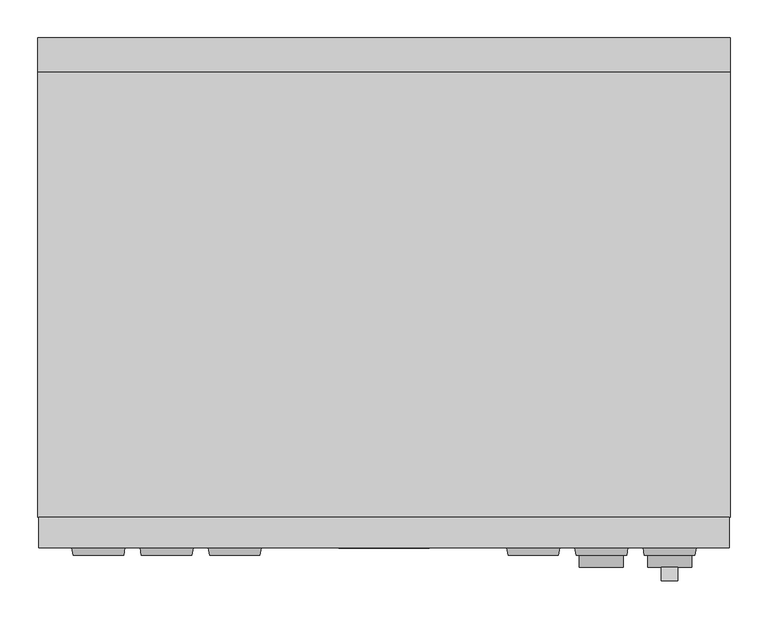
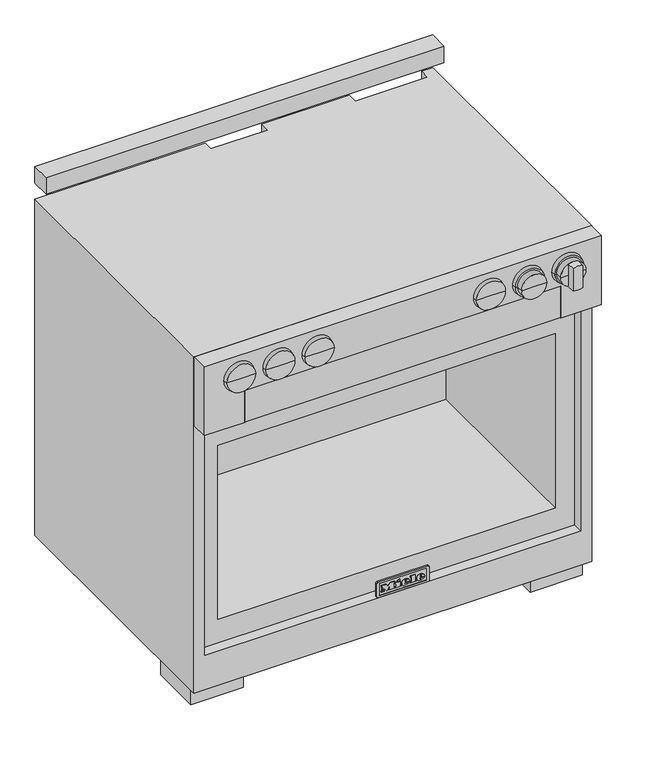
"""IFC4 building model written with IfcOpenShell, lengths in millimetres: proxy geometry, 10902390_USA_HR1934-2LP_EDST-CLS : 25193472_USA_10902390_HR1934-2LP_EDST-CLS."""

from ifc_helpers import new_model, si_unit, point, frame, frame_2d, origin, origin_with_axes, place, context, project, spatial, polyline, circle_curve, ellipse_curve, trimmed, segment, composite_curve, outline, extrude, faceted_brep, source, transform, mapped, element, save
from ifc_brep_helpers import plane_surface, cylinder_surface, revolved_surface, extruded_surface, advanced_brep


def specialty_equipment_d2eaf5fb(model_context):
    return source(origin(), model_context, "Body", "SolidModel", [
        advanced_brep(
        [(287.0, -683.0, 813.0), (316.0, -683.0, 813.0), (258.0, -683.0, 813.0), (258.0, -699.0, 813.0), (316.0, -699.0, 813.0), (287.0, -699.0, 813.0)],
        [
            (0, 1),
            (1, 2, circle_curve(frame((287.0, -683.0, 813.0), z_axis=(0.0, 1.0, 0.0), x_axis=(1.0, 0.0, 0.0)), 29.0)),
            (2, 0),
            (2, 1, circle_curve(frame((287.0, -683.0, 813.0), z_axis=(0.0, 1.0, 0.0), x_axis=(1.0, 0.0, 0.0)), 29.0)),
            (3, 4, circle_curve(frame((287.0, -699.0, 813.0), z_axis=(0.0, -1.0, 0.0), x_axis=(1.0, 0.0, 0.0)), 29.0)),
            (4, 5),
            (5, 3),
            (4, 3, circle_curve(frame((287.0, -699.0, 813.0), z_axis=(0.0, -1.0, 0.0), x_axis=(1.0, 0.0, 0.0)), 29.0)),
            (1, 4),
            (3, 2),
        ],
        [
            plane_surface(frame((287.0, -683.0, 813.0), z_axis=(0.0, 1.0, 0.0), x_axis=(1.0, 0.0, 0.0))),
            plane_surface(frame((287.0, -699.0, 813.0), z_axis=(0.0, -1.0, 0.0), x_axis=(1.0, 0.0, 0.0))),
            cylinder_surface(frame((287.0, 751.3738435, 813.0), z_axis=(0.0, 1.0, 0.0), x_axis=(1.0, 0.0, 0.0)), 29.0),
        ],
        [
            (0, [[1, 2, 3]]),
            (0, [[-3, 4, -1]]),
            (1, [[5, 6, 7]]),
            (1, [[8, -7, -6]]),
            (2, [[-2, 9, -5, 10]]),
            (2, [[-4, -10, -8, -9]]),
        ],
    ),
        extrude(outline(composite_curve([segment(polyline([(786.1671843, 388.0), (839.8328157, 388.0)]), True, "CONTINUOUS"), segment(trimmed(circle_curve(frame_2d((813.0, 377.0)), 29.0), [point((839.8328157, 388.0))], [point((839.8328157, 366.0))], False, "CARTESIAN"), True, "CONTINUOUS"), segment(polyline([(839.8328157, 366.0), (786.1671843, 366.0)]), True, "CONTINUOUS"), segment(trimmed(circle_curve(frame_2d((813.0, 377.0)), 29.0), [point((786.1671843, 366.0))], [point((786.1671843, 388.0))], False, "CARTESIAN"), True, "CONTINUOUS")], self_intersect=False)), frame((0.0, -717.0, 0.0), z_axis=(0.0, 1.0, 0.0), x_axis=(0.0, 0.0, 1.0)), (0.0, 0.0, 1.0), 18.0),
        advanced_brep(
        [(377.0, -683.0, 813.0), (406.0, -683.0, 813.0), (348.0, -683.0, 813.0), (348.0, -699.0, 813.0), (406.0, -699.0, 813.0), (377.0, -699.0, 813.0)],
        [
            (0, 1),
            (1, 2, circle_curve(frame((377.0, -683.0, 813.0), z_axis=(0.0, 1.0, 0.0), x_axis=(1.0, 0.0, 0.0)), 29.0)),
            (2, 0),
            (2, 1, circle_curve(frame((377.0, -683.0, 813.0), z_axis=(0.0, 1.0, 0.0), x_axis=(1.0, 0.0, 0.0)), 29.0)),
            (3, 4, circle_curve(frame((377.0, -699.0, 813.0), z_axis=(0.0, -1.0, 0.0), x_axis=(1.0, 0.0, 0.0)), 29.0)),
            (4, 5),
            (5, 3),
            (4, 3, circle_curve(frame((377.0, -699.0, 813.0), z_axis=(0.0, -1.0, 0.0), x_axis=(1.0, 0.0, 0.0)), 29.0)),
            (1, 4),
            (3, 2),
        ],
        [
            plane_surface(frame((377.0, -683.0, 813.0), z_axis=(0.0, 1.0, 0.0), x_axis=(1.0, 0.0, 0.0))),
            plane_surface(frame((377.0, -699.0, 813.0), z_axis=(0.0, -1.0, 0.0), x_axis=(1.0, 0.0, 0.0))),
            cylinder_surface(frame((377.0, 751.3738435, 813.0), z_axis=(0.0, 1.0, 0.0), x_axis=(1.0, 0.0, 0.0)), 29.0),
        ],
        [
            (0, [[1, 2, 3]]),
            (0, [[-3, 4, -1]]),
            (1, [[5, 6, 7]]),
            (1, [[8, -7, -6]]),
            (2, [[-2, 9, -5, 10]]),
            (2, [[-4, -10, -8, -9]]),
        ],
    ),
        extrude(outline(polyline([(-363.0, -666.7), (363.0, -666.7), (363.0, -671.7), (-363.0, -671.7), (-363.0, -666.7)])), frame((0.0, 0.0, 695.0), z_axis=(0.0, 0.0, 1.0), x_axis=(1.0, 0.0, 0.0)), (0.0, 0.0, 1.0), 77.0),
        faceted_brep([(456.0, -673.0, 862.0), (-456.0, -673.0, 862.0), (-456.0, -673.0, 695.0), (-363.0, -673.0, 695.0), (-363.0, -673.0, 772.0), (363.0, -673.0, 772.0), (363.0, -673.0, 695.0), (456.0, -673.0, 695.0), (456.0, -633.0, 862.0), (456.0, -633.0, 695.0), (-456.0, -633.0, 695.0), (-456.0, -633.0, 862.0), (363.0, -666.7, 695.0), (-363.0, -666.7, 695.0), (363.0, -666.7, 772.0), (-363.0, -666.7, 772.0)], [[[0, 1, 2, 3, 4, 5, 6, 7]], [[8, 9, 10, 11]], [[0, 7, 9, 8]], [[10, 9, 7, 6, 12, 13, 3, 2]], [[2, 1, 11, 10]], [[1, 0, 8, 11]], [[14, 15, 13, 12]], [[14, 12, 6, 5]], [[13, 15, 4, 3]], [[15, 14, 5, 4]]]),
        advanced_brep(
        [(-230.2367302, -683.0, 813.0), (-163.7632698, -683.0, 813.0), (-197.0, -683.0, 813.0), (-232.0, -673.0, 813.0), (-162.0, -673.0, 813.0), (-197.0, -673.0, 813.0)],
        [
            (0, 1, circle_curve(frame((-197.0, -683.0, 813.0), z_axis=(0.0, -1.0, 0.0), x_axis=(1.0, 0.0, 0.0)), 33.2367302)),
            (1, 2),
            (2, 0),
            (1, 0, circle_curve(frame((-197.0, -683.0, 813.0), z_axis=(0.0, -1.0, 0.0), x_axis=(1.0, 0.0, 0.0)), 33.2367302)),
            (3, 4, circle_curve(frame((-197.0, -673.0, 813.0), z_axis=(0.0, -1.0, 0.0), x_axis=(1.0, 0.0, 0.0)), 35.0)),
            (4, 1),
            (0, 3),
            (4, 3, circle_curve(frame((-197.0, -673.0, 813.0), z_axis=(0.0, -1.0, 0.0), x_axis=(1.0, 0.0, 0.0)), 35.0)),
            (5, 4),
            (3, 5),
        ],
        [
            plane_surface(frame((-197.0, -683.0, 813.0), z_axis=(0.0, -1.0, 0.0), x_axis=(1.0, 0.0, 0.0))),
            revolved_surface(polyline([(-163.7632698, -683.0, 813.0), (-162.0, -673.0, 813.0)]), (-197.0, 751.3738435, 813.0), (0.0, 1.0, 0.0)),
            plane_surface(frame((-197.0, -673.0, 813.0), z_axis=(0.0, 1.0, 0.0), x_axis=(1.0, 0.0, 0.0))),
        ],
        [
            (0, [[1, 2, 3]]),
            (0, [[4, -3, -2]]),
            (1, [[5, 6, -1, 7]]),
            (1, [[8, -7, -4, -6]]),
            (2, [[9, -5, 10]]),
            (2, [[-10, -8, -9]]),
        ],
    ),
        advanced_brep(
        [(-410.2367302, -683.0, 813.0), (-343.7632698, -683.0, 813.0), (-377.0, -683.0, 813.0), (-412.0, -673.0, 813.0), (-342.0, -673.0, 813.0), (-377.0, -673.0, 813.0)],
        [
            (0, 1, circle_curve(frame((-377.0, -683.0, 813.0), z_axis=(0.0, -1.0, 0.0), x_axis=(1.0, 0.0, 0.0)), 33.2367302)),
            (1, 2),
            (2, 0),
            (1, 0, circle_curve(frame((-377.0, -683.0, 813.0), z_axis=(0.0, -1.0, 0.0), x_axis=(1.0, 0.0, 0.0)), 33.2367302)),
            (3, 4, circle_curve(frame((-377.0, -673.0, 813.0), z_axis=(0.0, -1.0, 0.0), x_axis=(1.0, 0.0, 0.0)), 35.0)),
            (4, 1),
            (0, 3),
            (4, 3, circle_curve(frame((-377.0, -673.0, 813.0), z_axis=(0.0, -1.0, 0.0), x_axis=(1.0, 0.0, 0.0)), 35.0)),
            (5, 4),
            (3, 5),
        ],
        [
            plane_surface(frame((-377.0, -683.0, 813.0), z_axis=(0.0, -1.0, 0.0), x_axis=(1.0, 0.0, 0.0))),
            revolved_surface(polyline([(-343.7632698, -683.0, 813.0), (-342.0, -673.0, 813.0)]), (-377.0, 751.3738435, 813.0), (0.0, 1.0, 0.0)),
            plane_surface(frame((-377.0, -673.0, 813.0), z_axis=(0.0, 1.0, 0.0), x_axis=(1.0, 0.0, 0.0))),
        ],
        [
            (0, [[1, 2, 3]]),
            (0, [[4, -3, -2]]),
            (1, [[5, 6, -1, 7]]),
            (1, [[8, -7, -4, -6]]),
            (2, [[9, -5, 10]]),
            (2, [[-10, -8, -9]]),
        ],
    ),
        advanced_brep(
        [(-320.2367302, -683.0, 813.0), (-253.7632698, -683.0, 813.0), (-287.0, -683.0, 813.0), (-322.0, -673.0, 813.0), (-252.0, -673.0, 813.0), (-287.0, -673.0, 813.0)],
        [
            (0, 1, circle_curve(frame((-287.0, -683.0, 813.0), z_axis=(0.0, -1.0, 0.0), x_axis=(1.0, 0.0, 0.0)), 33.2367302)),
            (1, 2),
            (2, 0),
            (1, 0, circle_curve(frame((-287.0, -683.0, 813.0), z_axis=(0.0, -1.0, 0.0), x_axis=(1.0, 0.0, 0.0)), 33.2367302)),
            (3, 4, circle_curve(frame((-287.0, -673.0, 813.0), z_axis=(0.0, -1.0, 0.0), x_axis=(1.0, 0.0, 0.0)), 35.0)),
            (4, 1),
            (0, 3),
            (4, 3, circle_curve(frame((-287.0, -673.0, 813.0), z_axis=(0.0, -1.0, 0.0), x_axis=(1.0, 0.0, 0.0)), 35.0)),
            (5, 4),
            (3, 5),
        ],
        [
            plane_surface(frame((-287.0, -683.0, 813.0), z_axis=(0.0, -1.0, 0.0), x_axis=(1.0, 0.0, 0.0))),
            revolved_surface(polyline([(-253.7632698, -683.0, 813.0), (-252.0, -673.0, 813.0)]), (-287.0, 751.3738435, 813.0), (0.0, 1.0, 0.0)),
            plane_surface(frame((-287.0, -673.0, 813.0), z_axis=(0.0, 1.0, 0.0), x_axis=(1.0, 0.0, 0.0))),
        ],
        [
            (0, [[1, 2, 3]]),
            (0, [[4, -3, -2]]),
            (1, [[5, 6, -1, 7]]),
            (1, [[8, -7, -4, -6]]),
            (2, [[9, -5, 10]]),
            (2, [[-10, -8, -9]]),
        ],
    ),
        advanced_brep(
        [(163.7632698, -683.0, 813.0), (230.2367302, -683.0, 813.0), (197.0, -683.0, 813.0), (162.0, -673.0, 813.0), (232.0, -673.0, 813.0), (197.0, -673.0, 813.0)],
        [
            (0, 1, circle_curve(frame((197.0, -683.0, 813.0), z_axis=(0.0, -1.0, 0.0), x_axis=(1.0, 0.0, 0.0)), 33.2367302)),
            (1, 2),
            (2, 0),
            (1, 0, circle_curve(frame((197.0, -683.0, 813.0), z_axis=(0.0, -1.0, 0.0), x_axis=(1.0, 0.0, 0.0)), 33.2367302)),
            (3, 4, circle_curve(frame((197.0, -673.0, 813.0), z_axis=(0.0, -1.0, 0.0), x_axis=(1.0, 0.0, 0.0)), 35.0)),
            (4, 1),
            (0, 3),
            (4, 3, circle_curve(frame((197.0, -673.0, 813.0), z_axis=(0.0, -1.0, 0.0), x_axis=(1.0, 0.0, 0.0)), 35.0)),
            (5, 4),
            (3, 5),
        ],
        [
            plane_surface(frame((197.0, -683.0, 813.0), z_axis=(0.0, -1.0, 0.0), x_axis=(1.0, 0.0, 0.0))),
            revolved_surface(polyline([(230.2367302, -683.0, 813.0), (232.0, -673.0, 813.0)]), (197.0, 751.3738435, 813.0), (0.0, 1.0, 0.0)),
            plane_surface(frame((197.0, -673.0, 813.0), z_axis=(0.0, 1.0, 0.0), x_axis=(1.0, 0.0, 0.0))),
        ],
        [
            (0, [[1, 2, 3]]),
            (0, [[4, -3, -2]]),
            (1, [[5, 6, -1, 7]]),
            (1, [[8, -7, -4, -6]]),
            (2, [[9, -5, 10]]),
            (2, [[-10, -8, -9]]),
        ],
    ),
        advanced_brep(
        [(253.7632698, -683.0, 813.0), (320.2367302, -683.0, 813.0), (287.0, -683.0, 813.0), (252.0, -673.0, 813.0), (322.0, -673.0, 813.0), (287.0, -673.0, 813.0)],
        [
            (0, 1, circle_curve(frame((287.0, -683.0, 813.0), z_axis=(0.0, -1.0, 0.0), x_axis=(1.0, 0.0, 0.0)), 33.2367302)),
            (1, 2),
            (2, 0),
            (1, 0, circle_curve(frame((287.0, -683.0, 813.0), z_axis=(0.0, -1.0, 0.0), x_axis=(1.0, 0.0, 0.0)), 33.2367302)),
            (3, 4, circle_curve(frame((287.0, -673.0, 813.0), z_axis=(0.0, -1.0, 0.0), x_axis=(1.0, 0.0, 0.0)), 35.0)),
            (4, 1),
            (0, 3),
            (4, 3, circle_curve(frame((287.0, -673.0, 813.0), z_axis=(0.0, -1.0, 0.0), x_axis=(1.0, 0.0, 0.0)), 35.0)),
            (5, 4),
            (3, 5),
        ],
        [
            plane_surface(frame((287.0, -683.0, 813.0), z_axis=(0.0, -1.0, 0.0), x_axis=(1.0, 0.0, 0.0))),
            revolved_surface(polyline([(320.2367302, -683.0, 813.0), (322.0, -673.0, 813.0)]), (287.0, 751.3738435, 813.0), (0.0, 1.0, 0.0)),
            plane_surface(frame((287.0, -673.0, 813.0), z_axis=(0.0, 1.0, 0.0), x_axis=(1.0, 0.0, 0.0))),
        ],
        [
            (0, [[1, 2, 3]]),
            (0, [[4, -3, -2]]),
            (1, [[5, 6, -1, 7]]),
            (1, [[8, -7, -4, -6]]),
            (2, [[9, -5, 10]]),
            (2, [[-10, -8, -9]]),
        ],
    ),
        advanced_brep(
        [(343.7632698, -683.0, 813.0), (410.2367302, -683.0, 813.0), (377.0, -683.0, 813.0), (342.0, -673.0, 813.0), (412.0, -673.0, 813.0), (377.0, -673.0, 813.0)],
        [
            (0, 1, circle_curve(frame((377.0, -683.0, 813.0), z_axis=(0.0, -1.0, 0.0), x_axis=(1.0, 0.0, 0.0)), 33.2367302)),
            (1, 2),
            (2, 0),
            (1, 0, circle_curve(frame((377.0, -683.0, 813.0), z_axis=(0.0, -1.0, 0.0), x_axis=(1.0, 0.0, 0.0)), 33.2367302)),
            (3, 4, circle_curve(frame((377.0, -673.0, 813.0), z_axis=(0.0, -1.0, 0.0), x_axis=(1.0, 0.0, 0.0)), 35.0)),
            (4, 1),
            (0, 3),
            (4, 3, circle_curve(frame((377.0, -673.0, 813.0), z_axis=(0.0, -1.0, 0.0), x_axis=(1.0, 0.0, 0.0)), 35.0)),
            (5, 4),
            (3, 5),
        ],
        [
            plane_surface(frame((377.0, -683.0, 813.0), z_axis=(0.0, -1.0, 0.0), x_axis=(1.0, 0.0, 0.0))),
            revolved_surface(polyline([(410.2367302, -683.0, 813.0), (412.0, -673.0, 813.0)]), (377.0, 751.3738435, 813.0), (0.0, 1.0, 0.0)),
            plane_surface(frame((377.0, -673.0, 813.0), z_axis=(0.0, 1.0, 0.0), x_axis=(1.0, 0.0, 0.0))),
        ],
        [
            (0, [[1, 2, 3]]),
            (0, [[4, -3, -2]]),
            (1, [[5, 6, -1, 7]]),
            (1, [[8, -7, -4, -6]]),
            (2, [[9, -5, 10]]),
            (2, [[-10, -8, -9]]),
        ],
    ),
        extrude(outline(composite_curve([segment(trimmed(circle_curve(frame_2d((-152.0, 39.6862697)), 39.6862697), [point((-112.6710759, 45.0))], [point((-191.3289241, 45.0))], False, "CARTESIAN"), True, "CONTINUOUS"), segment(polyline([(-191.3289241, 45.0), (-112.6710759, 45.0)]), True, "CONTINUOUS")], self_intersect=False)), frame((282.0, 0.0, 0.0), z_axis=(1.0, 0.0, 0.0), x_axis=(0.0, 1.0, 0.0)), (0.0, 0.0, 1.0), 28.0),
        extrude(outline(composite_curve([segment(polyline([(-366.0009008, -40.0), (-367.2635363, -40.0), (-367.0191787, -38.9415709), (-366.8778726, -34.1117735)]), True, "CONTINUOUS"), segment(trimmed(circle_curve(frame_2d((-365.387549, -34.1553762)), 1.4909613), [point((-366.8778726, -34.1117735))], [point((-365.6381402, -32.6856246))], False, "CARTESIAN"), True, "CONTINUOUS"), segment(trimmed(circle_curve(frame_2d((-364.1175682, -37.7832301)), 5.3195602), [point((-365.6381402, -32.6856246))], [point((-362.440667, -32.7348914))], False, "CARTESIAN"), True, "CONTINUOUS"), segment(polyline([(-362.440667, -32.7348914), (-361.3643767, -33.4338425), (-360.8177226, -34.6616478), (-362.0710839, -34.8155412), (-362.6628147, -33.9704619)]), True, "CONTINUOUS"), segment(trimmed(circle_curve(frame_2d((-363.889909, -36.6278559)), 2.9270297), [point((-362.6628147, -33.9704619))], [point((-365.335883, -34.0829271))], True, "CARTESIAN"), True, "CONTINUOUS"), segment(polyline([(-365.335883, -34.0829271), (-365.6819155, -35.289686), (-362.4250607, -35.9227545)]), True, "CONTINUOUS"), segment(trimmed(circle_curve(frame_2d((-362.8373847, -38.0439776)), 2.1609254), [point((-362.4250607, -35.9227545))], [point((-361.2872437, -39.5495212))], False, "CARTESIAN"), True, "CONTINUOUS"), segment(trimmed(circle_curve(frame_2d((-363.2230106, -36.6941434)), 3.4496922), [point((-361.2872437, -39.5495212))], [point((-364.4810512, -39.9062626))], False, "CARTESIAN"), True, "CONTINUOUS"), segment(polyline([(-364.4810512, -39.9062626), (-365.6943945, -39.0566705), (-366.0009008, -40.0)]), True, "CONTINUOUS")], self_intersect=False), holes=[composite_curve([segment(polyline([(-365.6808047, -36.7241112), (-365.4778117, -37.8753414), (-364.6808418, -38.5929363), (-363.3846505, -38.8921857)]), True, "CONTINUOUS"), segment(trimmed(circle_curve(frame_2d((-363.1641539, -37.9371101)), 0.980198), [point((-363.3846505, -38.8921857))], [point((-362.5826105, -37.148063))], True, "CARTESIAN"), True, "CONTINUOUS"), segment(polyline([(-362.5826105, -37.148063), (-363.683896, -36.9339948), (-365.6808047, -36.7241112)]), True, "CONTINUOUS")], self_intersect=False)]), frame((0.0, 0.0, 753.0), z_axis=(0.0, 0.0, 1.0), x_axis=(1.0, 0.0, 0.0)), (0.0, 0.0, 1.0), 1.0),
        extrude(outline(composite_curve([segment(polyline([(-369.4581842, -37.6489066), (-368.202206, -37.8031213), (-369.1593436, -39.5606642)]), True, "CONTINUOUS"), segment(trimmed(circle_curve(frame_2d((-371.3057471, -36.6354063)), 3.6282478), [point((-369.1593436, -39.5606642))], [point((-372.8962663, -39.8964538))], False, "CARTESIAN"), True, "CONTINUOUS"), segment(trimmed(circle_curve(frame_2d((-371.7731504, -37.593725)), 2.5620205), [point((-372.8962663, -39.8964538))], [point((-374.32893, -37.7724425))], False, "CARTESIAN"), True, "CONTINUOUS"), segment(trimmed(circle_curve(frame_2d((-372.617737, -37.6527843)), 1.7153715), [point((-374.32893, -37.7724425))], [point((-373.147816, -36.021369))], False, "CARTESIAN"), True, "CONTINUOUS"), segment(polyline([(-373.147816, -36.021369), (-371.3069947, -35.4232499), (-369.987673, -33.9770867)]), True, "CONTINUOUS"), segment(trimmed(circle_curve(frame_2d((-371.1408399, -36.351197)), 2.6393548), [point((-369.987673, -33.9770867))], [point((-372.2940069, -33.9770867))], True, "CARTESIAN"), True, "CONTINUOUS"), segment(polyline([(-372.2940069, -33.9770867), (-372.7553884, -34.6611129), (-374.0084996, -34.5072502), (-373.5756304, -33.3795875)]), True, "CONTINUOUS"), segment(trimmed(circle_curve(frame_2d((-370.9527143, -36.6576461)), 4.1982564), [point((-373.5756304, -33.3795875))], [point((-371.0505395, -32.4605295))], False, "CARTESIAN"), True, "CONTINUOUS"), segment(trimmed(circle_curve(frame_2d((-370.9805679, -35.4626064)), 3.0028922), [point((-371.0505395, -32.4605295))], [point((-368.5718203, -33.6694816))], False, "CARTESIAN"), True, "CONTINUOUS"), segment(trimmed(circle_curve(frame_2d((-370.4380028, -34.5301363)), 2.0550823), [point((-368.5718203, -33.6694816))], [point((-369.4341096, -36.323335))], False, "CARTESIAN"), True, "CONTINUOUS"), segment(polyline([(-369.4341096, -36.323335), (-371.3494535, -36.9828408), (-373.0597255, -37.9076387), (-372.6768706, -38.6156702)]), True, "CONTINUOUS"), segment(trimmed(circle_curve(frame_2d((-371.3695779, -35.6018954)), 3.2850956), [point((-372.6768706, -38.6156702))], [point((-370.0622852, -38.6156702))], True, "CARTESIAN"), True, "CONTINUOUS"), segment(polyline([(-370.0622852, -38.6156702), (-369.4581842, -37.6489066)]), True, "CONTINUOUS")], self_intersect=False)), frame((0.0, 0.0, 753.0), z_axis=(0.0, 0.0, 1.0), x_axis=(1.0, 0.0, 0.0)), (0.0, 0.0, 1.0), 1.0),
        extrude(outline(composite_curve([segment(polyline([(-359.0941465, -34.8216074), (-355.0193946, -34.8216074), (-355.0193946, -36.0727848), (-357.8300756, -36.0727848), (-357.8300756, -37.8953779), (-356.5547934, -38.5734575), (-354.8554891, -38.8730907)]), True, "CONTINUOUS"), segment(trimmed(circle_curve(frame_2d((-354.7763582, -35.1835188)), 3.6904203), [point((-354.8554891, -38.8730907))], [point((-351.0917956, -34.975672))], True, "CARTESIAN"), True, "CONTINUOUS"), segment(trimmed(circle_curve(frame_2d((-355.2742118, -35.2116028)), 4.1890654), [point((-351.0917956, -34.975672))], [point((-354.8924604, -31.0399683))], True, "CARTESIAN"), True, "CONTINUOUS"), segment(trimmed(circle_curve(frame_2d((-355.1434541, -33.7827322)), 2.7542243), [point((-354.8924604, -31.0399683))], [point((-357.2311401, -31.9862582))], True, "CARTESIAN"), True, "CONTINUOUS"), segment(polyline([(-357.2311401, -31.9862582), (-357.7913432, -33.1348449), (-358.9545959, -32.808521), (-358.2222817, -31.1459412)]), True, "CONTINUOUS"), segment(trimmed(circle_curve(frame_2d((-355.0056573, -34.3038983)), 4.5077007), [point((-358.2222817, -31.1459412))], [point((-354.8478593, -29.7989604))], False, "CARTESIAN"), True, "CONTINUOUS"), segment(trimmed(circle_curve(frame_2d((-355.0297107, -35.0029797)), 5.2071956), [point((-354.8478593, -29.7989604))], [point((-349.8225151, -35.0029797))], False, "CARTESIAN"), True, "CONTINUOUS"), segment(trimmed(circle_curve(frame_2d((-355.0187023, -34.9634409)), 5.1963376), [point((-349.8225151, -35.0029797))], [point((-355.0187023, -40.1597785))], False, "CARTESIAN"), True, "CONTINUOUS"), segment(polyline([(-355.0187023, -40.1597785), (-357.0821579, -39.7823822), (-359.0941465, -38.5734575), (-359.0941465, -34.8216074)]), True, "CONTINUOUS")], self_intersect=False)), frame((0.0, 0.0, 753.0), z_axis=(0.0, 0.0, 1.0), x_axis=(1.0, 0.0, 0.0)), (0.0, 0.0, 1.0), 1.0),
        extrude(outline(polyline([(246.4261097, -49.2846028), (239.1553153, -49.2846028), (239.1553153, -48.0259878), (245.1324687, -48.0259878), (245.1324687, -45.0398896), (239.4699511, -45.0398896), (239.4699511, -43.7868997), (245.1324687, -43.7868997), (245.1324687, -40.484481), (239.0234692, -40.484481), (239.0234692, -39.223126), (246.4261097, -39.223126), (246.4261097, -49.2846028)])), frame((0.0, 0.0, 101.0), z_axis=(0.0, 0.0, 1.0), x_axis=(1.0, 0.0, 0.0)), (0.0, 0.0, 1.0), 1.0),
        extrude(outline(polyline([(237.0939455, -49.2781045), (230.9083542, -49.2781045), (230.9083542, -48.0259878), (235.9083542, -48.0259878), (235.9083542, -39.223126), (237.0939455, -39.223126), (237.0939455, -49.2781045)])), frame((0.0, 0.0, 101.0), z_axis=(0.0, 0.0, 1.0), x_axis=(1.0, 0.0, 0.0)), (0.0, 0.0, 1.0), 1.0),
        extrude(outline(composite_curve([segment(trimmed(circle_curve(frame_2d((239.0, -45.0)), 7.5), [point((239.0, -52.5))], [point((239.0, -37.5))], False, "CARTESIAN"), True, "CONTINUOUS"), segment(trimmed(circle_curve(frame_2d((239.0, -45.0)), 7.5), [point((239.0, -37.5))], [point((239.0, -52.5))], False, "CARTESIAN"), True, "CONTINUOUS")], self_intersect=False)), frame((0.0, 0.0, 102.0), z_axis=(0.0, 0.0, 1.0), x_axis=(1.0, 0.0, 0.0)), (0.0, 0.0, 1.0), 30.0),
        extrude(outline(composite_curve([segment(trimmed(circle_curve(frame_2d((-362.0, -35.0)), 7.5), [point((-369.5, -35.0))], [point((-354.5, -35.0))], False, "CARTESIAN"), True, "CONTINUOUS"), segment(trimmed(circle_curve(frame_2d((-362.0, -35.0)), 7.5), [point((-354.5, -35.0))], [point((-369.5, -35.0))], False, "CARTESIAN"), True, "CONTINUOUS")], self_intersect=False)), frame((0.0, 0.0, 754.0), z_axis=(0.0, 0.0, 1.0), x_axis=(1.0, 0.0, 0.0)), (0.0, 0.0, 1.0), 30.0),
        extrude(outline(polyline([(742.9900117, -299.5376107), (753.0405487, -296.8032463), (753.0405487, -298.1010309), (744.3952189, -300.1941056), (753.0411296, -302.6946617), (753.0411296, -304.5615338), (744.4117226, -307.0845612), (753.0419182, -309.165026), (753.0419182, -310.4626989), (742.9984871, -307.7244126), (742.9984871, -306.3735976), (751.8308623, -303.6286268), (742.9900117, -301.0716905), (742.9900117, -299.5376107)])), frame((0.0, -39.0, 0.0), z_axis=(0.0, 1.0, 0.0), x_axis=(0.0, 0.0, 1.0)), (0.0, 0.0, 1.0), 1.0),
        extrude(outline(polyline([(743.0, -288.4829639), (753.0509015, -288.4829639), (753.0509015, -289.7409127), (748.1386151, -289.7409127), (753.0475587, -294.8904554), (753.0475587, -296.6455728), (748.9164775, -292.3179994), (743.0, -296.8019347), (743.0, -295.2701694), (748.0664133, -291.4304743), (746.4465471, -289.7392234), (743.0, -289.7392234), (743.0, -288.4829639)])), frame((0.0, -39.0, 0.0), z_axis=(0.0, 1.0, 0.0), x_axis=(0.0, 0.0, 1.0)), (0.0, 0.0, 1.0), 1.0),
        extrude(outline(composite_curve([segment(trimmed(circle_curve(frame_2d((748.0, -299.0)), 7.5), [point((748.0, -291.5))], [point((748.0, -306.5))], False, "CARTESIAN"), True, "CONTINUOUS"), segment(trimmed(circle_curve(frame_2d((748.0, -299.0)), 7.5), [point((748.0, -306.5))], [point((748.0, -291.5))], False, "CARTESIAN"), True, "CONTINUOUS")], self_intersect=False)), frame((0.0, -69.0, 0.0), z_axis=(0.0, 1.0, 0.0), x_axis=(0.0, 0.0, 1.0)), (0.0, 0.0, 1.0), 30.0),
        faceted_brep([(-457.0, 0.0, 862.0), (-457.0, -633.0, 862.0), (457.0, -633.0, 862.0), (457.0, 0.0, 862.0), (432.0, 0.0, 862.0), (432.0, -23.0, 862.0), (266.0, -23.0, 862.0), (266.0, 0.0, 862.0), (65.0, 0.0, 862.0), (65.0, -23.0, 862.0), (-66.0, -23.0, 862.0), (-66.0, 0.0, 862.0), (457.0, 0.0, 45.0), (457.0, -633.0, 45.0), (-457.0, -633.0, 45.0), (-457.0, 0.0, 45.0), (-432.0, 0.0, 45.0), (-432.0, -75.0, 45.0), (432.0, -75.0, 45.0), (432.0, 0.0, 45.0), (266.0, 0.0, 132.0), (65.0, 0.0, 132.0), (-66.0, 0.0, 132.0), (-270.0, 0.0, 132.0), (-270.0, 0.0, 784.0), (-411.0, 0.0, 784.0), (-411.0, 0.0, 132.0), (-432.0, 0.0, 132.0), (432.0, -633.0, 695.0), (432.0, -633.0, 128.0), (-432.0, -633.0, 128.0), (-432.0, -633.0, 695.0), (432.0, -608.0, 695.0), (-432.0, -608.0, 695.0), (-432.0, -608.0, 128.0), (432.0, -608.0, 128.0), (388.0, -608.0, 608.0), (388.0, -608.0, 185.0), (-388.0, -608.0, 185.0), (-388.0, -608.0, 608.0), (388.0, -173.0, 608.0), (-388.0, -173.0, 608.0), (-388.0, -173.0, 185.0), (388.0, -173.0, 185.0), (432.0, -23.0, 132.0), (266.0, -23.0, 132.0), (65.0, -23.0, 132.0), (-66.0, -23.0, 132.0), (432.0, -75.0, 132.0), (-411.0, -69.0, 784.0), (-270.0, -69.0, 784.0), (-270.0, -69.0, 132.0), (-411.0, -69.0, 132.0), (-432.0, -75.0, 132.0)], [[[0, 1, 2, 3, 4, 5, 6, 7, 8, 9, 10, 11]], [[12, 13, 14, 15, 16, 17, 18, 19]], [[8, 7, 20, 21]], [[3, 12, 19, 4]], [[15, 0, 11, 22, 23, 24, 25, 26, 27, 16]], [[1, 0, 15, 14]], [[2, 1, 14, 13], [28, 29, 30, 31]], [[3, 2, 13, 12]], [[32, 33, 34, 35], [36, 37, 38, 39]], [[32, 35, 29, 28]], [[35, 34, 30, 29]], [[34, 33, 31, 30]], [[33, 32, 28, 31]], [[40, 41, 42, 43]], [[40, 43, 37, 36]], [[43, 42, 38, 37]], [[42, 41, 39, 38]], [[41, 40, 36, 39]], [[6, 5, 44, 45]], [[10, 9, 46, 47]], [[9, 8, 21, 46]], [[11, 10, 47, 22]], [[5, 4, 19, 18, 48, 44]], [[7, 6, 45, 20]], [[49, 50, 51, 52]], [[50, 49, 25, 24]], [[50, 24, 23, 51]], [[25, 49, 52, 26]], [[53, 48, 18, 17]], [[27, 53, 17, 16]], [[48, 53, 27, 26, 52, 51, 23, 22, 47, 46, 21, 20, 45, 44]]]),
        extrude(outline(composite_curve([segment(trimmed(circle_curve(frame_2d((-152.0, 39.6862697)), 39.6862697), [point((-112.6710759, 45.0))], [point((-191.3289241, 45.0))], False, "CARTESIAN"), True, "CONTINUOUS"), segment(polyline([(-191.3289241, 45.0), (-112.6710759, 45.0)]), True, "CONTINUOUS")], self_intersect=False)), frame((-310.0, 0.0, 0.0), z_axis=(1.0, 0.0, 0.0), x_axis=(0.0, 1.0, 0.0)), (0.0, 0.0, 1.0), 28.0),
        extrude(outline(polyline([(-330.0, -489.0), (-330.0, -609.0), (-450.0, -609.0), (-450.0, -489.0), (-330.0, -489.0)])), origin_with_axes(), (0.0, 0.0, 1.0), 45.0),
        extrude(outline(polyline([(450.0, -489.0), (450.0, -609.0), (330.0, -609.0), (330.0, -489.0), (450.0, -489.0)])), origin_with_axes(), (0.0, 0.0, 1.0), 45.0),
        advanced_brep(
        [(39.18, -674.0, 175.9105), (39.18, -674.0, 177.577), (50.2185, -674.0, 177.577), (31.0125, -674.0, 177.577), (35.55, -674.0, 172.0), (49.938, -674.0, 175.9105), (44.955, -674.0, 175.9105), (41.028, -674.0, 174.0625), (39.18, -674.0, 179.689), (39.18, -674.0, 181.4875), (42.0015, -674.0, 181.4875), (42.0015, -674.0, 179.689), (39.18, -673.0, 175.9105), (41.028, -673.0, 174.0625), (44.955, -673.0, 175.9105), (49.938, -673.0, 175.9105), (35.55, -673.0, 172.0), (31.0125, -673.0, 177.577), (50.2185, -673.0, 177.577), (39.18, -673.0, 177.577), (39.18, -673.0, 179.689), (42.0015, -673.0, 179.689), (42.0015, -673.0, 181.4875), (39.18, -673.0, 181.4875)],
        [
            (0, 1),
            (1, 2),
            (2, 3, ellipse_curve(frame((40.6155, -674.0, 177.577), z_axis=(0.0, -1.0, 0.0), x_axis=(-1.0, 0.0, 0.0)), 9.603, 7.9365)),
            (3, 4, circle_curve(frame((37.39809, -674.0, 178.138), z_axis=(0.0, -1.0, 0.0), x_axis=(0.0, 0.0, -1.0)), 6.4101857)),
            (4, 5, circle_curve(frame((40.4232618, -674.0, 182.494), z_axis=(0.0, -1.0, 0.0), x_axis=(0.0, 0.0, -1.0)), 11.5703378)),
            (5, 6),
            (6, 7, circle_curve(frame((41.8345588, -674.0, 177.445), z_axis=(0.0, 1.0, 0.0), x_axis=(0.0, 0.0, -1.0)), 3.4773328)),
            (7, 0, circle_curve(frame((41.028, -674.0, 175.9105), z_axis=(0.0, 1.0, 0.0), x_axis=(0.0, 0.0, -1.0)), 1.848)),
            (8, 9),
            (9, 10, circle_curve(frame((40.59075, -674.0, 181.4875), z_axis=(0.0, 1.0, 0.0), x_axis=(0.0, 0.0, -1.0)), 1.41075)),
            (10, 11),
            (11, 8),
            (12, 13, circle_curve(frame((41.028, -673.0, 175.9105), z_axis=(0.0, -1.0, 0.0), x_axis=(0.0, 0.0, -1.0)), 1.848)),
            (13, 14, circle_curve(frame((41.8345588, -673.0, 177.445), z_axis=(0.0, -1.0, 0.0), x_axis=(0.0, 0.0, -1.0)), 3.4773328)),
            (14, 15),
            (15, 16, circle_curve(frame((40.4232618, -673.0, 182.494), z_axis=(0.0, 1.0, 0.0), x_axis=(0.0, 0.0, -1.0)), 11.5703378)),
            (16, 17, circle_curve(frame((37.39809, -673.0, 178.138), z_axis=(0.0, 1.0, 0.0), x_axis=(0.0, 0.0, -1.0)), 6.4101857)),
            (17, 18, ellipse_curve(frame((40.6155, -673.0, 177.577), z_axis=(0.0, 1.0, 0.0), x_axis=(-1.0, 0.0, 0.0)), 9.603, 7.9365)),
            (18, 19),
            (19, 12),
            (20, 21),
            (21, 22),
            (22, 23, circle_curve(frame((40.59075, -673.0, 181.4875), z_axis=(0.0, -1.0, 0.0), x_axis=(0.0, 0.0, -1.0)), 1.41075)),
            (23, 20),
            (0, 12),
            (19, 1),
            (18, 2),
            (5, 15),
            (14, 6),
            (17, 3),
            (13, 7),
            (16, 4),
            (8, 20),
            (23, 9),
            (22, 10),
            (21, 11),
        ],
        [
            plane_surface(frame((39.18, -674.0, 177.577), z_axis=(0.0, -1.0, 0.0), x_axis=(0.0, 0.0, 1.0))),
            plane_surface(frame((39.18, -673.0, 177.577), z_axis=(0.0, 1.0, 0.0), x_axis=(0.0, 0.0, -1.0))),
            plane_surface(frame((39.18, -674.0, 175.9105), z_axis=(1.0, 0.0, 0.0), x_axis=(0.0, 1.0, 0.0))),
            plane_surface(frame((39.18, -674.0, 177.577), z_axis=(0.0, 0.0, -1.0), x_axis=(0.0, 1.0, 0.0))),
            plane_surface(frame((49.938, -674.0, 175.9105), z_axis=(0.0, 0.0, 1.0), x_axis=(0.0, 1.0, 0.0))),
            extruded_surface(trimmed(ellipse_curve(frame((40.6155, -672.0, 177.577), z_axis=(0.0, -1.0, 0.0), x_axis=(-1.0, 0.0, 0.0)), 9.603, 7.9365), [point((50.2185, -672.0, 177.577))], [point((31.0125, -672.0, 177.577))], True, "CARTESIAN"), (0.0, -1.0, 0.0), 1.0),
            revolved_surface(polyline([(41.8345588, -673.0, 173.9676672), (41.8345588, -674.0, 173.9676672)]), (41.8345588, -673.0, 177.445), (0.0, 1.0, 0.0)),
            revolved_surface(polyline([(41.028, -673.0, 174.0625), (41.028, -674.0, 174.0625)]), (41.028, -673.0, 175.9105), (0.0, 1.0, 0.0)),
            cylinder_surface(frame((37.39809, -673.0, 178.138), z_axis=(0.0, -1.0, 0.0), x_axis=(0.0, 0.0, -1.0)), 6.4101857),
            cylinder_surface(frame((40.4232618, -673.0, 182.494), z_axis=(0.0, -1.0, 0.0), x_axis=(0.0, 0.0, -1.0)), 11.5703378),
            plane_surface(frame((39.18, -674.0, 179.689), z_axis=(1.0, 0.0, 0.0), x_axis=(0.0, 1.0, 0.0))),
            revolved_surface(polyline([(40.59075, -673.0, 180.07675), (40.59075, -674.0, 180.07675)]), (40.59075, -673.0, 181.4875), (0.0, 1.0, 0.0)),
            plane_surface(frame((42.0015, -674.0, 181.4875), z_axis=(-1.0, 0.0, 0.0), x_axis=(0.0, 1.0, 0.0))),
            plane_surface(frame((42.0015, -674.0, 179.689), z_axis=(0.0, 0.0, 1.0), x_axis=(0.0, 1.0, 0.0))),
        ],
        [
            (0, [[1, 2, 3, 4, 5, 6, 7, 8], [9, 10, 11, 12]]),
            (1, [[13, 14, 15, 16, 17, 18, 19, 20], [21, 22, 23, 24]]),
            (2, [[-1, 25, -20, 26]]),
            (3, [[-2, -26, -19, 27]]),
            (4, [[-6, 28, -15, 29]]),
            (5, [[-3, -27, -18, 30]]),
            (6, [[-7, -29, -14, 31]]),
            (7, [[-8, -31, -13, -25]]),
            (8, [[-4, -30, -17, 32]]),
            (9, [[-5, -32, -16, -28]]),
            (10, [[-9, 33, -24, 34]]),
            (11, [[-10, -34, -23, 35]]),
            (12, [[-11, -35, -22, 36]]),
            (13, [[-12, -36, -21, -33]]),
        ],
    ),
        advanced_brep(
        [(4.7445, -674.0, 175.9105), (4.7445, -674.0, 177.577), (15.783, -674.0, 177.577), (-3.423, -674.0, 177.577), (1.1145, -674.0, 172.0), (15.5025, -674.0, 175.9105), (10.5195, -674.0, 175.9105), (6.5925, -674.0, 174.0625), (4.7445, -674.0, 179.689), (4.7445, -674.0, 181.4875), (7.566, -674.0, 181.4875), (7.566, -674.0, 179.689), (4.7445, -673.0, 175.9105), (6.5925, -673.0, 174.0625), (10.5195, -673.0, 175.9105), (15.5025, -673.0, 175.9105), (1.1145, -673.0, 172.0), (-3.423, -673.0, 177.577), (15.783, -673.0, 177.577), (4.7445, -673.0, 177.577), (4.7445, -673.0, 179.689), (7.566, -673.0, 179.689), (7.566, -673.0, 181.4875), (4.7445, -673.0, 181.4875)],
        [
            (0, 1),
            (1, 2),
            (2, 3, ellipse_curve(frame((6.18, -674.0, 177.577), z_axis=(0.0, -1.0, 0.0), x_axis=(-1.0, 0.0, 0.0)), 9.603, 7.9365)),
            (3, 4, circle_curve(frame((2.96259, -674.0, 178.138), z_axis=(0.0, -1.0, 0.0), x_axis=(0.0, 0.0, -1.0)), 6.4101857)),
            (4, 5, circle_curve(frame((5.9877618, -674.0, 182.494), z_axis=(0.0, -1.0, 0.0), x_axis=(0.0, 0.0, -1.0)), 11.5703378)),
            (5, 6),
            (6, 7, circle_curve(frame((7.3990588, -674.0, 177.445), z_axis=(0.0, 1.0, 0.0), x_axis=(0.0, 0.0, -1.0)), 3.4773328)),
            (7, 0, circle_curve(frame((6.5925, -674.0, 175.9105), z_axis=(0.0, 1.0, 0.0), x_axis=(0.0, 0.0, -1.0)), 1.848)),
            (8, 9),
            (9, 10, circle_curve(frame((6.15525, -674.0, 181.4875), z_axis=(0.0, 1.0, 0.0), x_axis=(0.0, 0.0, -1.0)), 1.41075)),
            (10, 11),
            (11, 8),
            (12, 13, circle_curve(frame((6.5925, -673.0, 175.9105), z_axis=(0.0, -1.0, 0.0), x_axis=(0.0, 0.0, -1.0)), 1.848)),
            (13, 14, circle_curve(frame((7.3990588, -673.0, 177.445), z_axis=(0.0, -1.0, 0.0), x_axis=(0.0, 0.0, -1.0)), 3.4773328)),
            (14, 15),
            (15, 16, circle_curve(frame((5.9877618, -673.0, 182.494), z_axis=(0.0, 1.0, 0.0), x_axis=(0.0, 0.0, -1.0)), 11.5703378)),
            (16, 17, circle_curve(frame((2.96259, -673.0, 178.138), z_axis=(0.0, 1.0, 0.0), x_axis=(0.0, 0.0, -1.0)), 6.4101857)),
            (17, 18, ellipse_curve(frame((6.18, -673.0, 177.577), z_axis=(0.0, 1.0, 0.0), x_axis=(-1.0, 0.0, 0.0)), 9.603, 7.9365)),
            (18, 19),
            (19, 12),
            (20, 21),
            (21, 22),
            (22, 23, circle_curve(frame((6.15525, -673.0, 181.4875), z_axis=(0.0, -1.0, 0.0), x_axis=(0.0, 0.0, -1.0)), 1.41075)),
            (23, 20),
            (0, 12),
            (19, 1),
            (18, 2),
            (5, 15),
            (14, 6),
            (17, 3),
            (13, 7),
            (16, 4),
            (8, 20),
            (23, 9),
            (22, 10),
            (21, 11),
        ],
        [
            plane_surface(frame((4.7445, -674.0, 177.577), z_axis=(0.0, -1.0, 0.0), x_axis=(0.0, 0.0, 1.0))),
            plane_surface(frame((4.7445, -673.0, 177.577), z_axis=(0.0, 1.0, 0.0), x_axis=(0.0, 0.0, -1.0))),
            plane_surface(frame((4.7445, -674.0, 175.9105), z_axis=(1.0, 0.0, 0.0), x_axis=(0.0, 1.0, 0.0))),
            plane_surface(frame((4.7445, -674.0, 177.577), z_axis=(0.0, 0.0, -1.0), x_axis=(0.0, 1.0, 0.0))),
            plane_surface(frame((15.5025, -674.0, 175.9105), z_axis=(0.0, 0.0, 1.0), x_axis=(0.0, 1.0, 0.0))),
            extruded_surface(trimmed(ellipse_curve(frame((6.18, -672.0, 177.577), z_axis=(0.0, -1.0, 0.0), x_axis=(-1.0, 0.0, 0.0)), 9.603, 7.9365), [point((15.783, -672.0, 177.577))], [point((-3.423, -672.0, 177.577))], True, "CARTESIAN"), (0.0, -1.0, 0.0), 1.0),
            revolved_surface(polyline([(7.3990588, -673.0, 173.9676672), (7.3990588, -674.0, 173.9676672)]), (7.3990588, -673.0, 177.445), (0.0, 1.0, 0.0)),
            revolved_surface(polyline([(6.5925, -673.0, 174.0625), (6.5925, -674.0, 174.0625)]), (6.5925, -673.0, 175.9105), (0.0, 1.0, 0.0)),
            cylinder_surface(frame((2.96259, -673.0, 178.138), z_axis=(0.0, -1.0, 0.0), x_axis=(0.0, 0.0, -1.0)), 6.4101857),
            cylinder_surface(frame((5.9877618, -673.0, 182.494), z_axis=(0.0, -1.0, 0.0), x_axis=(0.0, 0.0, -1.0)), 11.5703378),
            plane_surface(frame((4.7445, -674.0, 179.689), z_axis=(1.0, 0.0, 0.0), x_axis=(0.0, 1.0, 0.0))),
            revolved_surface(polyline([(6.15525, -673.0, 180.07675), (6.15525, -674.0, 180.07675)]), (6.15525, -673.0, 181.4875), (0.0, 1.0, 0.0)),
            plane_surface(frame((7.566, -674.0, 181.4875), z_axis=(-1.0, 0.0, 0.0), x_axis=(0.0, 1.0, 0.0))),
            plane_surface(frame((7.566, -674.0, 179.689), z_axis=(0.0, 0.0, 1.0), x_axis=(0.0, 1.0, 0.0))),
        ],
        [
            (0, [[1, 2, 3, 4, 5, 6, 7, 8], [9, 10, 11, 12]]),
            (1, [[13, 14, 15, 16, 17, 18, 19, 20], [21, 22, 23, 24]]),
            (2, [[-1, 25, -20, 26]]),
            (3, [[-2, -26, -19, 27]]),
            (4, [[-6, 28, -15, 29]]),
            (5, [[-3, -27, -18, 30]]),
            (6, [[-7, -29, -14, 31]]),
            (7, [[-8, -31, -13, -25]]),
            (8, [[-4, -30, -17, 32]]),
            (9, [[-5, -32, -16, -28]]),
            (10, [[-9, 33, -24, 34]]),
            (11, [[-10, -34, -23, 35]]),
            (12, [[-11, -35, -22, 36]]),
            (13, [[-12, -36, -21, -33]]),
        ],
    ),
        extrude(outline(polyline([(187.5265, -13.29), (184.8535, -12.036), (187.4605, -6.4425), (190.1335, -7.68), (187.5265, -13.29)])), frame((0.0, -674.0, 0.0), z_axis=(0.0, 1.0, 0.0), x_axis=(0.0, 0.0, 1.0)), (0.0, 0.0, 1.0), 1.0),
        extrude(outline(polyline([(184.4905, -17.3655), (181.537, -17.3655), (181.537, -15.402), (174.772, -15.402), (174.772, -17.3655), (172.0, -17.3655), (172.0, -4.347), (174.772, -4.347), (174.772, -6.261), (184.4905, -6.261), (184.4905, -17.3655)])), frame((0.0, -674.0, 0.0), z_axis=(0.0, 1.0, 0.0), x_axis=(0.0, 0.0, 1.0)), (0.0, 0.0, 1.0), 1.0),
        extrude(outline(polyline([(185.8105, 16.707), (185.8105, 18.687), (174.772, 18.687), (174.772, 16.707), (172.0, 16.707), (172.0, 30.0885), (174.772, 30.0885), (174.772, 28.059), (188.5, 28.059), (188.5, 16.707), (185.8105, 16.707)])), frame((0.0, -674.0, 0.0), z_axis=(0.0, 1.0, 0.0), x_axis=(0.0, 0.0, 1.0)), (0.0, 0.0, 1.0), 1.0),
        extrude(outline(polyline([(185.8105, -50.25), (185.8105, -48.2535), (174.772, -48.2535), (174.772, -50.25), (172.0, -50.25), (172.0, -42.99), (174.772, -42.99), (174.772, -44.97), (181.7366247, -44.97), (172.0, -37.5945), (182.1277223, -30.186), (174.772, -30.186), (174.772, -32.2155), (172.0, -32.2155), (172.0, -19.0485), (174.772, -19.0485), (174.772, -21.144), (185.8105, -21.144), (185.8105, -19.0485), (188.5, -19.0485), (188.5, -29.097), (182.3125, -33.915), (188.5, -38.7495), (188.5, -50.25), (185.8105, -50.25)])), frame((0.0, -674.0, 0.0), z_axis=(0.0, 1.0, 0.0), x_axis=(0.0, 0.0, 1.0)), (0.0, 0.0, 1.0), 1.0),
        advanced_brep(
        [(57.5, -674.0, 199.0), (-57.5, -674.0, 199.0), (-60.0, -674.0, 196.5), (-60.0, -674.0, 164.5), (-57.5, -674.0, 162.0), (57.5, -674.0, 162.0), (60.0, -674.0, 164.5), (60.0, -674.0, 196.5), (-52.5, -674.0, 195.0), (52.5, -674.0, 195.0), (54.0, -674.0, 193.5), (54.0, -674.0, 167.5), (52.5, -674.0, 166.0), (-52.5, -674.0, 166.0), (-54.0, -674.0, 167.5), (-54.0, -674.0, 193.5), (57.5, -670.0, 199.0), (60.0, -670.0, 196.5), (60.0, -670.0, 164.5), (57.5, -670.0, 162.0), (-57.5, -670.0, 162.0), (-60.0, -670.0, 164.5), (-60.0, -670.0, 196.5), (-57.5, -670.0, 199.0), (52.5, -673.0, 195.0), (-52.5, -673.0, 195.0), (-54.0, -673.0, 193.5), (-54.0, -673.0, 167.5), (-52.5, -673.0, 166.0), (52.5, -673.0, 166.0), (54.0, -673.0, 167.5), (54.0, -673.0, 193.5)],
        [
            (0, 1),
            (1, 2, circle_curve(frame((-57.5, -674.0, 196.5), z_axis=(0.0, -1.0, 0.0), x_axis=(-1.0, 0.0, 0.0)), 2.5)),
            (2, 3),
            (3, 4, circle_curve(frame((-57.5, -674.0, 164.5), z_axis=(0.0, -1.0, 0.0), x_axis=(-1.0, 0.0, 0.0)), 2.5)),
            (4, 5),
            (5, 6, circle_curve(frame((57.5, -674.0, 164.5), z_axis=(0.0, -1.0, 0.0), x_axis=(-1.0, 0.0, 0.0)), 2.5)),
            (6, 7),
            (7, 0, circle_curve(frame((57.5, -674.0, 196.5), z_axis=(0.0, -1.0, 0.0), x_axis=(-1.0, 0.0, 0.0)), 2.5)),
            (8, 9),
            (9, 10, circle_curve(frame((52.5, -674.0, 193.5), z_axis=(0.0, 1.0, 0.0), x_axis=(1.0, 0.0, 0.0)), 1.5)),
            (10, 11),
            (11, 12, circle_curve(frame((52.5, -674.0, 167.5), z_axis=(0.0, 1.0, 0.0), x_axis=(1.0, 0.0, 0.0)), 1.5)),
            (12, 13),
            (13, 14, circle_curve(frame((-52.5, -674.0, 167.5), z_axis=(0.0, 1.0, 0.0), x_axis=(1.0, 0.0, 0.0)), 1.5)),
            (14, 15),
            (15, 8, circle_curve(frame((-52.5, -674.0, 193.5), z_axis=(0.0, 1.0, 0.0), x_axis=(1.0, 0.0, 0.0)), 1.5)),
            (16, 17, circle_curve(frame((57.5, -670.0, 196.5), z_axis=(0.0, 1.0, 0.0), x_axis=(-1.0, 0.0, 0.0)), 2.5)),
            (17, 18),
            (18, 19, circle_curve(frame((57.5, -670.0, 164.5), z_axis=(0.0, 1.0, 0.0), x_axis=(-1.0, 0.0, 0.0)), 2.5)),
            (19, 20),
            (20, 21, circle_curve(frame((-57.5, -670.0, 164.5), z_axis=(0.0, 1.0, 0.0), x_axis=(-1.0, 0.0, 0.0)), 2.5)),
            (21, 22),
            (22, 23, circle_curve(frame((-57.5, -670.0, 196.5), z_axis=(0.0, 1.0, 0.0), x_axis=(-1.0, 0.0, 0.0)), 2.5)),
            (23, 16),
            (0, 16),
            (23, 1),
            (22, 2),
            (21, 3),
            (20, 4),
            (19, 5),
            (18, 6),
            (17, 7),
            (24, 25),
            (25, 26, circle_curve(frame((-52.5, -673.0, 193.5), z_axis=(0.0, -1.0, 0.0), x_axis=(1.0, 0.0, 0.0)), 1.5)),
            (26, 27),
            (27, 28, circle_curve(frame((-52.5, -673.0, 167.5), z_axis=(0.0, -1.0, 0.0), x_axis=(1.0, 0.0, 0.0)), 1.5)),
            (28, 29),
            (29, 30, circle_curve(frame((52.5, -673.0, 167.5), z_axis=(0.0, -1.0, 0.0), x_axis=(1.0, 0.0, 0.0)), 1.5)),
            (30, 31),
            (31, 24, circle_curve(frame((52.5, -673.0, 193.5), z_axis=(0.0, -1.0, 0.0), x_axis=(1.0, 0.0, 0.0)), 1.5)),
            (24, 9),
            (8, 25),
            (15, 26),
            (14, 27),
            (13, 28),
            (12, 29),
            (11, 30),
            (10, 31),
        ],
        [
            plane_surface(frame((55.0, -674.0, 196.5), z_axis=(0.0, -1.0, 0.0), x_axis=(0.0, 0.0, -1.0))),
            plane_surface(frame((55.0, -670.0, 196.5), z_axis=(0.0, 1.0, 0.0), x_axis=(0.0, 0.0, 1.0))),
            plane_surface(frame((-57.5, -670.0, 199.0), z_axis=(0.0, 0.0, 1.0), x_axis=(0.0, -1.0, 0.0))),
            cylinder_surface(frame((-57.5, -674.0, 196.5), z_axis=(0.0, 1.0, 0.0), x_axis=(-1.0, 0.0, 0.0)), 2.5),
            plane_surface(frame((-60.0, -670.0, 164.5), z_axis=(-1.0, 0.0, 0.0), x_axis=(0.0, -1.0, 0.0))),
            cylinder_surface(frame((-57.5, -674.0, 164.5), z_axis=(0.0, 1.0, 0.0), x_axis=(-1.0, 0.0, 0.0)), 2.5),
            plane_surface(frame((57.5, -670.0, 162.0), z_axis=(0.0, 0.0, -1.0), x_axis=(0.0, -1.0, 0.0))),
            cylinder_surface(frame((57.5, -674.0, 164.5), z_axis=(0.0, 1.0, 0.0), x_axis=(-1.0, 0.0, 0.0)), 2.5),
            plane_surface(frame((60.0, -670.0, 196.5), z_axis=(1.0, 0.0, 0.0), x_axis=(0.0, -1.0, 0.0))),
            cylinder_surface(frame((57.5, -674.0, 196.5), z_axis=(0.0, 1.0, 0.0), x_axis=(-1.0, 0.0, 0.0)), 2.5),
            plane_surface(frame((-52.5, -673.0, 195.0), z_axis=(0.0, -1.0, 0.0), x_axis=(1.0, 0.0, 0.0))),
            plane_surface(frame((52.5, -674.0, 195.0), z_axis=(0.0, 0.0, -1.0), x_axis=(0.0, 1.0, 0.0))),
            revolved_surface(polyline([(-51.0, -674.0, 193.5), (-51.0, -673.0, 193.5)]), (-52.5, -673.0, 193.5), (0.0, -1.0, 0.0)),
            plane_surface(frame((-54.0, -674.0, 193.5), z_axis=(1.0, 0.0, 0.0), x_axis=(0.0, 1.0, 0.0))),
            revolved_surface(polyline([(-51.0, -674.0, 167.5), (-51.0, -673.0, 167.5)]), (-52.5, -673.0, 167.5), (0.0, -1.0, 0.0)),
            plane_surface(frame((-52.5, -674.0, 166.0), z_axis=(0.0, 0.0, 1.0), x_axis=(0.0, 1.0, 0.0))),
            revolved_surface(polyline([(54.0, -674.0, 167.5), (54.0, -673.0, 167.5)]), (52.5, -673.0, 167.5), (0.0, -1.0, 0.0)),
            plane_surface(frame((54.0, -674.0, 167.5), z_axis=(-1.0, 0.0, 0.0), x_axis=(0.0, 1.0, 0.0))),
            revolved_surface(polyline([(54.0, -674.0, 193.5), (54.0, -673.0, 193.5)]), (52.5, -673.0, 193.5), (0.0, -1.0, 0.0)),
        ],
        [
            (0, [[1, 2, 3, 4, 5, 6, 7, 8], [9, 10, 11, 12, 13, 14, 15, 16]]),
            (1, [[17, 18, 19, 20, 21, 22, 23, 24]]),
            (2, [[-1, 25, -24, 26]]),
            (3, [[-2, -26, -23, 27]]),
            (4, [[-3, -27, -22, 28]]),
            (5, [[-4, -28, -21, 29]]),
            (6, [[-5, -29, -20, 30]]),
            (7, [[-6, -30, -19, 31]]),
            (8, [[-7, -31, -18, 32]]),
            (9, [[-8, -32, -17, -25]]),
            (10, [[33, 34, 35, 36, 37, 38, 39, 40]]),
            (11, [[-33, 41, -9, 42]]),
            (12, [[-34, -42, -16, 43]]),
            (13, [[-35, -43, -15, 44]]),
            (14, [[-36, -44, -14, 45]]),
            (15, [[-37, -45, -13, 46]]),
            (16, [[-38, -46, -12, 47]]),
            (17, [[-39, -47, -11, 48]]),
            (18, [[-40, -48, -10, -41]]),
        ],
    ),
        extrude(outline(polyline([(457.0, 0.0), (457.0, -45.0), (-457.0, -45.0), (-457.0, 0.0), (457.0, 0.0)])), frame((0.0, 0.0, 902.0), z_axis=(0.0, 0.0, 1.0), x_axis=(1.0, 0.0, 0.0)), (0.0, 0.0, 1.0), 40.0),
    ])


if __name__ == "__main__":
    model = new_model("IFC4")
    model_context = context("Model", 3, world=origin())
    ifc_project = project(units=[si_unit("LENGTHUNIT", "METRE", prefix="MILLI")], contexts=[model_context])
    site = spatial("IfcSite", under=ifc_project)
    building = spatial("IfcBuilding", under=site)
    placement = place(None, origin())
    specialty_equipment_shape = specialty_equipment_d2eaf5fb(model_context)
    element("IfcBuildingElementProxy", 1, Name="10902390_USA_HR1934-2LP_EDST-CLS : 25193472_USA_10902390_HR1934-2LP_EDST-CLS", ObjectType="10902390_USA_HR1934-2LP_EDST-CLS : 25193472_USA_10902390_HR1934-2LP_EDST-CLS", at=placement, inside=building, context=model_context, shape_type="MappedRepresentation", body=[
        mapped(specialty_equipment_shape, transform((0.0, 0.0, 0.0), x_axis=(1.0, 0.0, 0.0), y_axis=(0.0, 1.0, 0.0), z_axis=(0.0, 0.0, 1.0))),
    ])
    save(model, "model.ifc")
